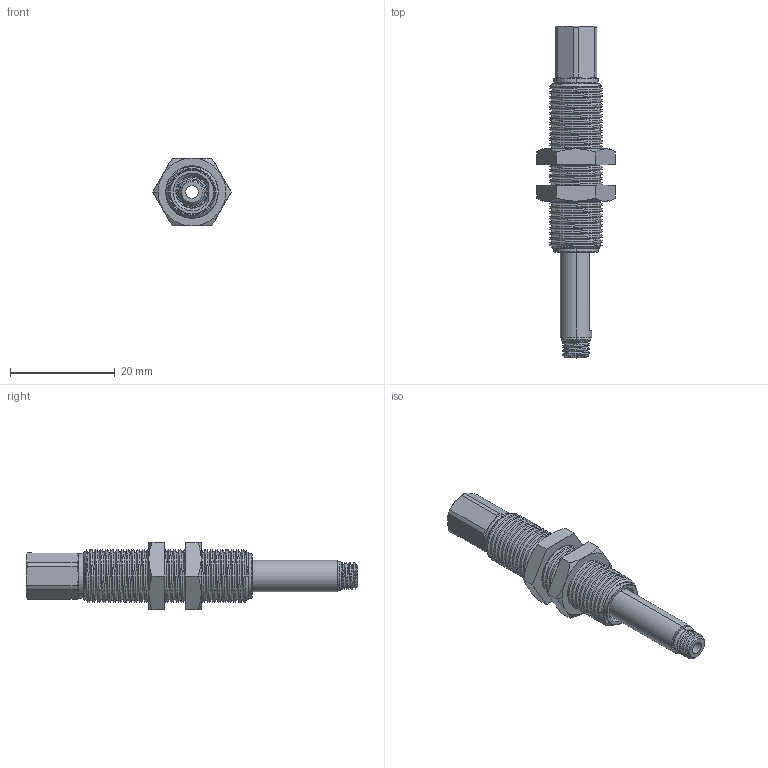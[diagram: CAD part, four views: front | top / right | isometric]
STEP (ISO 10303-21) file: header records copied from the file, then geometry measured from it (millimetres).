
FILE_DESCRIPTION (( 'STEP AP203' ), '1' );
FILE_NAME ('bln04-4bt15nk67a-m5b_asm〞〞TOC.STEP', '2024-10-17T03:11:47', ( '' ), ( '' ), 'SwSTEP 2.0', 'SolidWorks 2022', '' );
FILE_SCHEMA (( 'CONFIG_CONTROL_DESIGN' ));
Length unit declared in the file: millimetre
Products named in the file (1): bln04-4bt15nk67a-m5b_asm——TOC
Bounding box: 15.01 x 63.5 x 13 mm (x, y, z)
Surface area: 3583.2 mm2 (no closed solid volume)
Topology: 0 solids, 9 shells, 207 faces, 590 edges, 391 vertices
Faces by surface type: cylinder 85, cone 58, plane 34, bspline 26, torus 4
Entity records: 15992 total; most frequent: CARTESIAN_POINT 11174, ORIENTED_EDGE 1063, DIRECTION 777, EDGE_CURVE 590, VERTEX_POINT 391, AXIS2_PLACEMENT_3D 311, B_SPLINE_CURVE_WITH_KNOTS 306, EDGE_LOOP 219
